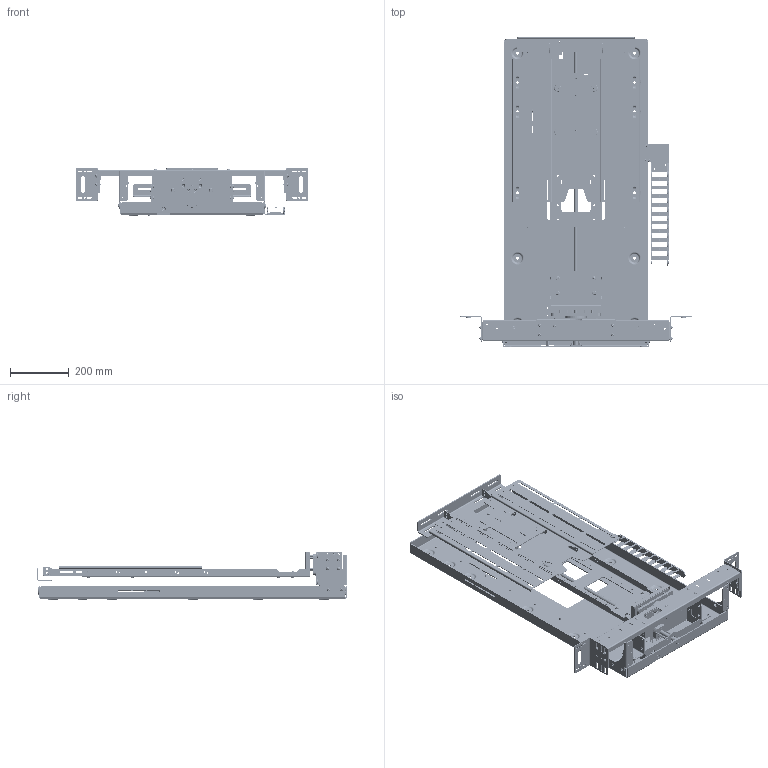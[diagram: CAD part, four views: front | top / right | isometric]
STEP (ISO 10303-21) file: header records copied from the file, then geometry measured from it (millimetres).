
FILE_DESCRIPTION (( 'STEP AP203' ), '1' );
FILE_NAME ('LSM-BE7 - 3D CAD DOWN ISSUE001.STEP', '2023-05-25T14:51:23', ( '' ), ( '' ), 'SwSTEP 2.0', 'SolidWorks 2019', '' );
FILE_SCHEMA (( 'CONFIG_CONTROL_DESIGN' ));
Length unit declared in the file: millimetre
Products named in the file (72): SWITCH HOUSING LANDING BOARD; PEM FH-M4-12 X--N_PEM FH-M4-12 X--N; ISO - 4032 - M5 - D - N_ISO - 4032 - M5 - D - N; LSM V4-002 FOOT LEFT; Hexagon Nut ISO - 4033 - M6 - D - N_Hexagon Nut ISO - 4033 - M6 - D - N; ISO 7380 - M5 x 12 --- 12N_ISO 7380 - M5 x 12 --- 12N; ISO 10642 - M4 x 12 - 12C_ISO 10642 - M4 x 12 - 12C; ISO 7380 - M4 x 8 - 8N_ISO 7380 - M4 x 8 - 8N; LSM21-403-BP SWIVEL COVER_FOLDED; LSM V4-245 TOP MOTOR BOSS; ISO 10642 - M6 x 12 --- 12N_ISO 10642 - M6 x 12 --- 12N; Washer ISO 7089 - 4_Washer ISO 7089 - 4; ISO 4762 M6 x 30 - 30N_ISO 4762 M6 x 30 - 30N; LSM21-409-BP MOUNT DISC PLATE; 0033-014 60mm TRACK END M_Z14.4.1PZ; LSM V4-006 BLOCK BRACKET; ISO 7380 - M6 x 20 - 20N_ISO 7380 - M6 x 20 - 20N; M4X20mm HEX SPACER; ISO 7380 - M4 x 10 - 10N_ISO 7380 - M4 x 10 - 10N; LSM21-404-BP LIFT MOUNT_780 ; ISO 7380 - M4 x 8 - 8CBZP_ISO 7380 - M4 x 8 - 8CBZP; LSM V4-003 FOOT RIGHT; KH-204 CAM BOSS; KH-003 CAM LEVER; LSM21-415-BP BEAM; LSM-BE7 - 3D CAD DOWN ISSUE001; LSM V4-007 BLOCK BRACKET MIRROR; LSM Igus Bracket_V2; KH-206 SCREEN MOUNT BOSS; LSM V4-252 LEAD SCREW TOP BUSH; LSM21-201-MS COVER BOSS_DEFAULT; LSM21-406-BP BE TOP BRACKET; ISO 7380 - M6 x 16 - 16CBZP_ISO 7380 - M6 x 16 - 16CBZP; ISO 7380 - M5 x 12 - 12N_ISO 7380 - M5 x 12 - 12N; LSM V4-010 TOP SWITCH STOP; ISO - 4034 - M6 - N_ISO - 4034 - M6 - N; 0033-013 60mm TRACK LINK_Z14.4.028.0; LSM21-407-BP UPRIGHT; LSM V4-211 LEAD SCREW_H1060; ISO - 4032 - M4 - D - N_ISO - 4032 - M4 - D - N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
Assembly tree (210 placements, depth 2):
  LSM-BE7 - 3D CAD DOWN ISSUE001
    LSM V4-401 BACK PLATE PUNCH_H1060
    LSM Igus Bracket_V2
    0033-014 60mm TRACK END M_Z14.4.1PZ
    LSM V4-211 LEAD SCREW_H1060
    LSM21-415-BP BEAM
    LSM21-410-BP BEAM FRONT
    LSM V4-006 BLOCK BRACKET
    M6 Hex Post_20
    0033-013 60mm TRACK LINK_Z14.4.028.0  x11
    LSM V4-002 FOOT LEFT
    LSM V4-003 FOOT RIGHT
    LSM V4-252 LEAD SCREW TOP BUSH
    LSM V4-251 LEAD SCREW BOTTOM BUSH
    LSM V4-010 TOP SWITCH STOP
    LSM V4-057 BLANK SWITCH CARRIER  x2
    LSM V4-245 TOP MOTOR BOSS
    SWITCH HOUSING LANDING BOARD
    LSM21-409-BP MOUNT DISC PLATE
    LSM21-448-MS SWITCH HOUSING 
    LSM21-004-BP UPRIGHT FOOT
    LSM21-201-MS COVER BOSS_DEFAULT  x2
    LSM21-403-BP SWIVEL COVER_FOLDED
    LSM21-407-BP UPRIGHT
    LSM21-406-BP BE TOP BRACKET
    LSM21-408-BP UPRIGHT MIRROR
    LSM21-404-BP LIFT MOUNT_780 
    LSM V4-220 H-19 KH MOUNT DISC
    LSM21-005-BP LOWER PLATE_FOLDED
    KH-001 MOUNT PLATE_V400
    KH-204 CAM BOSS
    KH-205 BOSS SPACER_15MM  x4
    KH-002 MOUNT LOCK PLATE_Cam
    KH-206 SCREEN MOUNT BOSS  x4
    KH-003 CAM LEVER
    M4X20mm HEX SPACER  x2
    LSM V4-007 BLOCK BRACKET MIRROR
    Hexagon Flange Nut ISO - 4161 - M6 - N_Hexagon Flange Nut ISO - 4161 - M6 - N  x4
    ISO 10642 - M5 x 8 --- 8N_ISO 10642 - M5 x 8 --- 8N  x2
    ISO 4762 M5 x 8 --- 8N_ISO 4762 M5 x 8 --- 8N  x2
    ISO 7380 - M5 x 10 --- 10N_ISO 7380 - M5 x 10 --- 10N  x2
    ISO 7380 - M6 x 10 --- 10N_ISO 7380 - M6 x 10 --- 10N  x18
    ISO 4017 - M6 x 16-N_ISO 4017 - M6 x 16-N
    ISO 10642 - M6 x 12 --- 12N_ISO 10642 - M6 x 12 --- 12N
    Hexagon Nut ISO - 4033 - M6 - D - N_Hexagon Nut ISO - 4033 - M6 - D - N
    ISO 7380 - M6 x 12 --- 12N_ISO 7380 - M6 x 12 --- 12N  x11
    ISO 7380 - M5 x 12 --- 12N_ISO 7380 - M5 x 12 --- 12N  x8
    ISO 4762 M5 x 50 - 22N_ISO 4762 M5 x 50 - 22N  x2
    ISO 10642 - M4 x 12 - 12C_ISO 10642 - M4 x 12 - 12C  x3
    ISO 7380 - M5 x 12 - 12N_ISO 7380 - M5 x 12 - 12N  x3
    Washer ISO 7089 - 5_Washer ISO 7089 - 5  x2
    ISO - 4032 - M5 - D - N_ISO - 4032 - M5 - D - N  x2
    ISO 7380 - M6 x 16 - 16N_ISO 7380 - M6 x 16 - 16N  x4
    Washer ISO 7089 - 6_Washer ISO 7089 - 6  x12
    ISO - 4034 - M6 - N_ISO - 4034 - M6 - N  x4
    ISO - 4161 - M6 - N_ISO - 4161 - M6 - N  x4
    ISO 7380 - M6 x 20 - 20N_ISO 7380 - M6 x 20 - 20N  x4
    ISO - 4032 - M4 - D - N_ISO - 4032 - M4 - D - N  x2
    Washer ISO 7089 - 4_Washer ISO 7089 - 4  x2
    ISO 7380 - M4 x 10 - 10N_ISO 7380 - M4 x 10 - 10N  x2
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Bounding box: 795 x 1060 x 166 mm (x, y, z)
Volume: 4773710.1 mm3; surface area: 2964015.3 mm2
Topology: 210 solids, 210 shells, 5675 faces, 13711 edges, 8650 vertices
Faces by surface type: plane 3354, cylinder 1371, cone 612, torus 197, bspline 74, sphere 67
Full cylindrical faces by diameter (mm): 3 x8, 3.3 x6, 3.5 x2, 4 x17, 4.2 x10, 4.3 x4, 4.5 x4, 4.65 x9, 5 x74, 5.2 x2, 5.3 x4, 5.415 x2, 5.5 x6, 5.55 x47, 6 x91, 6.2 x83, 6.3 x8, 6.4 x37, 6.5 x10, 6.6 x10, 6.8 x6, 7 x2, 7.1 x3, 7.2 x1, 7.53 x3, 7.6 x5, 8.5 x4, 9 x2, 9.1 x12, 9.43 x2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
Entity records: 97371 total; most frequent: CARTESIAN_POINT 19400, DIRECTION 14185, ORIENTED_EDGE 12526, EDGE_CURVE 6263, AXIS2_PLACEMENT_3D 5329, VERTEX_POINT 4296, EDGE_LOOP 4211, VECTOR 3527
